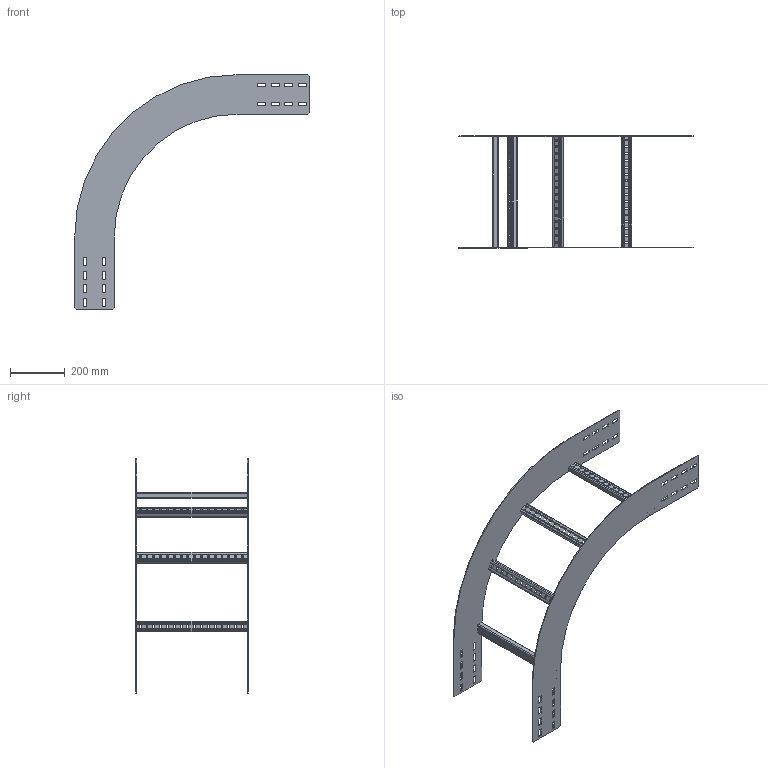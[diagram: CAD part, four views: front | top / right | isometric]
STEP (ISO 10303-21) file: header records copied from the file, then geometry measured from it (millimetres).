
FILE_DESCRIPTION(('Creo Elements/Direct Modeling STEP Export'),'2;1');
FILE_NAME('WPOR15-40-90-45.stp','2016-06-02T11:56:23',(''),(''),'PTC Creo Elements/Direct Modeling STEP processor for AP214 (Solid Model)','PTC Creo Elements/Direct Modeling 19.0C 15-Aug-2015 (C) Parametric Technology GmbH','');
FILE_SCHEMA(('AUTOMOTIVE_DESIGN { 1 0 10303 214 1 1 1 1 }'));
Length unit declared in the file: millimetre
Products named in the file (3): WPIBG150_450.1; WPHBS40; WPOR15-40-90-45
Assembly tree (6 placements, depth 2):
  WPOR15-40-90-45
    WPHBS40  x4
    WPIBG150_450.1  x2
Bounding box: 860 x 411 x 860 mm (x, y, z)
Volume: 1378174.1 mm3; surface area: 1112248 mm2
Topology: 6 solids, 6 shells, 572 faces, 1680 edges, 1120 vertices
Faces by surface type: plane 368, cylinder 204
Entity records: 6252 total; most frequent: CARTESIAN_POINT 1078, ORIENTED_EDGE 1068, DIRECTION 1014, EDGE_CURVE 534, VECTOR 430, LINE 430, VERTEX_POINT 356, AXIS2_PLACEMENT_3D 292
